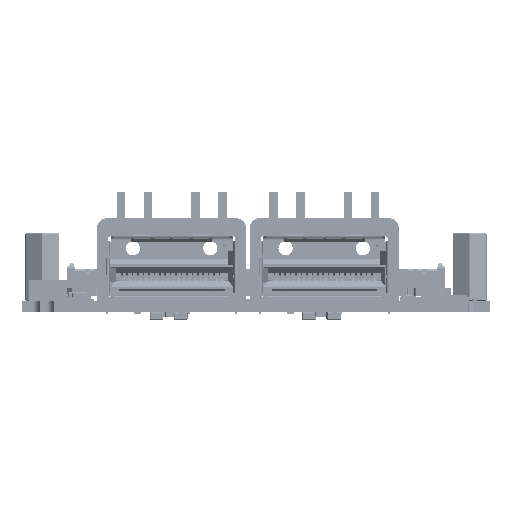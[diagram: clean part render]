
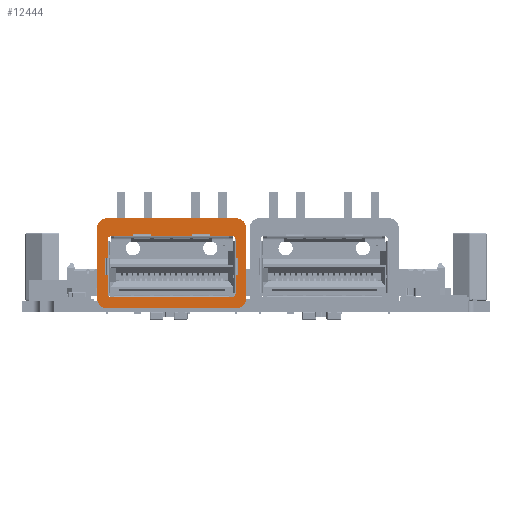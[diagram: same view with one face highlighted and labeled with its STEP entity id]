
A CAD part, left-side view. The second image highlights one B-rep face of the part: STEP entity #12444.
In plain terms, the highlighted planar face has unit normal (-1, 0, 0) as drawn and (0, 0, 1) by its records, which use the part's own axes.
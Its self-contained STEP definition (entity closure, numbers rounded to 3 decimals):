
#12444 = ADVANCED_FACE('',(#12445,#12515),#12713,.T.);
#12445 = FACE_BOUND('',#12446,.T.);
#12446 = EDGE_LOOP('',(#12447,#12457,#12466,#12474,#12483,#12491,#12500,
    #12508));
#12447 = ORIENTED_EDGE('',*,*,#12448,.T.);
#12448 = EDGE_CURVE('',#12449,#12451,#12453,.T.);
#12449 = VERTEX_POINT('',#12450);
#12450 = CARTESIAN_POINT('',(-11.,5.64,0.));
#12451 = VERTEX_POINT('',#12452);
#12452 = CARTESIAN_POINT('',(-11.,-4.65,0.));
#12453 = LINE('',#12454,#12455);
#12454 = CARTESIAN_POINT('',(-11.,5.64,0.));
#12455 = VECTOR('',#12456,1.);
#12456 = DIRECTION('',(0.,-1.,0.));
#12457 = ORIENTED_EDGE('',*,*,#12458,.T.);
#12458 = EDGE_CURVE('',#12451,#12459,#12461,.T.);
#12459 = VERTEX_POINT('',#12460);
#12460 = CARTESIAN_POINT('',(-9.5,-6.15,0.));
#12461 = CIRCLE('',#12462,1.5);
#12462 = AXIS2_PLACEMENT_3D('',#12463,#12464,#12465);
#12463 = CARTESIAN_POINT('',(-9.5,-4.65,0.));
#12464 = DIRECTION('',(0.,0.,1.));
#12465 = DIRECTION('',(-1.,0.,0.));
#12466 = ORIENTED_EDGE('',*,*,#12467,.T.);
#12467 = EDGE_CURVE('',#12459,#12468,#12470,.T.);
#12468 = VERTEX_POINT('',#12469);
#12469 = CARTESIAN_POINT('',(9.5,-6.15,0.));
#12470 = LINE('',#12471,#12472);
#12471 = CARTESIAN_POINT('',(-9.5,-6.15,0.));
#12472 = VECTOR('',#12473,1.);
#12473 = DIRECTION('',(1.,0.,0.));
#12474 = ORIENTED_EDGE('',*,*,#12475,.T.);
#12475 = EDGE_CURVE('',#12468,#12476,#12478,.T.);
#12476 = VERTEX_POINT('',#12477);
#12477 = CARTESIAN_POINT('',(11.,-4.65,0.));
#12478 = CIRCLE('',#12479,1.5);
#12479 = AXIS2_PLACEMENT_3D('',#12480,#12481,#12482);
#12480 = CARTESIAN_POINT('',(9.5,-4.65,0.));
#12481 = DIRECTION('',(0.,0.,1.));
#12482 = DIRECTION('',(0.,-1.,0.));
#12483 = ORIENTED_EDGE('',*,*,#12484,.T.);
#12484 = EDGE_CURVE('',#12476,#12485,#12487,.T.);
#12485 = VERTEX_POINT('',#12486);
#12486 = CARTESIAN_POINT('',(11.,5.64,0.));
#12487 = LINE('',#12488,#12489);
#12488 = CARTESIAN_POINT('',(11.,-4.65,0.));
#12489 = VECTOR('',#12490,1.);
#12490 = DIRECTION('',(0.,1.,0.));
#12491 = ORIENTED_EDGE('',*,*,#12492,.T.);
#12492 = EDGE_CURVE('',#12485,#12493,#12495,.T.);
#12493 = VERTEX_POINT('',#12494);
#12494 = CARTESIAN_POINT('',(9.5,7.14,0.));
#12495 = CIRCLE('',#12496,1.5);
#12496 = AXIS2_PLACEMENT_3D('',#12497,#12498,#12499);
#12497 = CARTESIAN_POINT('',(9.5,5.64,0.));
#12498 = DIRECTION('',(0.,0.,1.));
#12499 = DIRECTION('',(1.,0.,-0.));
#12500 = ORIENTED_EDGE('',*,*,#12501,.T.);
#12501 = EDGE_CURVE('',#12493,#12502,#12504,.T.);
#12502 = VERTEX_POINT('',#12503);
#12503 = CARTESIAN_POINT('',(-9.5,7.14,0.));
#12504 = LINE('',#12505,#12506);
#12505 = CARTESIAN_POINT('',(9.5,7.14,0.));
#12506 = VECTOR('',#12507,1.);
#12507 = DIRECTION('',(-1.,0.,0.));
#12508 = ORIENTED_EDGE('',*,*,#12509,.T.);
#12509 = EDGE_CURVE('',#12502,#12449,#12510,.T.);
#12510 = CIRCLE('',#12511,1.5);
#12511 = AXIS2_PLACEMENT_3D('',#12512,#12513,#12514);
#12512 = CARTESIAN_POINT('',(-9.5,5.64,0.));
#12513 = DIRECTION('',(0.,-0.,1.));
#12514 = DIRECTION('',(0.,1.,0.));
#12515 = FACE_BOUND('',#12516,.T.);
#12516 = EDGE_LOOP('',(#12517,#12527,#12535,#12543,#12551,#12559,#12567,
    #12576,#12584,#12592,#12600,#12608,#12616,#12625,#12633,#12642,
    #12650,#12658,#12666,#12674,#12682,#12691,#12699,#12707));
#12517 = ORIENTED_EDGE('',*,*,#12518,.T.);
#12518 = EDGE_CURVE('',#12519,#12521,#12523,.T.);
#12519 = VERTEX_POINT('',#12520);
#12520 = CARTESIAN_POINT('',(-2.995,4.85,0.));
#12521 = VERTEX_POINT('',#12522);
#12522 = CARTESIAN_POINT('',(-2.995,4.5,0.));
#12523 = LINE('',#12524,#12525);
#12524 = CARTESIAN_POINT('',(-2.995,4.85,0.));
#12525 = VECTOR('',#12526,1.);
#12526 = DIRECTION('',(0.,-1.,0.));
#12527 = ORIENTED_EDGE('',*,*,#12528,.T.);
#12528 = EDGE_CURVE('',#12521,#12529,#12531,.T.);
#12529 = VERTEX_POINT('',#12530);
#12530 = CARTESIAN_POINT('',(2.995,4.5,0.));
#12531 = LINE('',#12532,#12533);
#12532 = CARTESIAN_POINT('',(-2.995,4.5,0.));
#12533 = VECTOR('',#12534,1.);
#12534 = DIRECTION('',(1.,0.,0.));
#12535 = ORIENTED_EDGE('',*,*,#12536,.F.);
#12536 = EDGE_CURVE('',#12537,#12529,#12539,.T.);
#12537 = VERTEX_POINT('',#12538);
#12538 = CARTESIAN_POINT('',(2.995,4.85,0.));
#12539 = LINE('',#12540,#12541);
#12540 = CARTESIAN_POINT('',(2.995,4.85,0.));
#12541 = VECTOR('',#12542,1.);
#12542 = DIRECTION('',(0.,-1.,0.));
#12543 = ORIENTED_EDGE('',*,*,#12544,.T.);
#12544 = EDGE_CURVE('',#12537,#12545,#12547,.T.);
#12545 = VERTEX_POINT('',#12546);
#12546 = CARTESIAN_POINT('',(5.705,4.85,0.));
#12547 = LINE('',#12548,#12549);
#12548 = CARTESIAN_POINT('',(2.995,4.85,0.));
#12549 = VECTOR('',#12550,1.);
#12550 = DIRECTION('',(1.,0.,0.));
#12551 = ORIENTED_EDGE('',*,*,#12552,.T.);
#12552 = EDGE_CURVE('',#12545,#12553,#12555,.T.);
#12553 = VERTEX_POINT('',#12554);
#12554 = CARTESIAN_POINT('',(5.705,4.5,0.));
#12555 = LINE('',#12556,#12557);
#12556 = CARTESIAN_POINT('',(5.705,4.85,0.));
#12557 = VECTOR('',#12558,1.);
#12558 = DIRECTION('',(0.,-1.,0.));
#12559 = ORIENTED_EDGE('',*,*,#12560,.T.);
#12560 = EDGE_CURVE('',#12553,#12561,#12563,.T.);
#12561 = VERTEX_POINT('',#12562);
#12562 = CARTESIAN_POINT('',(8.925,4.5,0.));
#12563 = LINE('',#12564,#12565);
#12564 = CARTESIAN_POINT('',(5.705,4.5,0.));
#12565 = VECTOR('',#12566,1.);
#12566 = DIRECTION('',(1.,0.,0.));
#12567 = ORIENTED_EDGE('',*,*,#12568,.T.);
#12568 = EDGE_CURVE('',#12561,#12569,#12571,.T.);
#12569 = VERTEX_POINT('',#12570);
#12570 = CARTESIAN_POINT('',(9.425,4.,0.));
#12571 = CIRCLE('',#12572,0.5);
#12572 = AXIS2_PLACEMENT_3D('',#12573,#12574,#12575);
#12573 = CARTESIAN_POINT('',(8.925,4.,0.));
#12574 = DIRECTION('',(0.,0.,-1.));
#12575 = DIRECTION('',(0.,1.,0.));
#12576 = ORIENTED_EDGE('',*,*,#12577,.T.);
#12577 = EDGE_CURVE('',#12569,#12578,#12580,.T.);
#12578 = VERTEX_POINT('',#12579);
#12579 = CARTESIAN_POINT('',(9.425,1.25,0.));
#12580 = LINE('',#12581,#12582);
#12581 = CARTESIAN_POINT('',(9.425,4.,0.));
#12582 = VECTOR('',#12583,1.);
#12583 = DIRECTION('',(0.,-1.,0.));
#12584 = ORIENTED_EDGE('',*,*,#12585,.T.);
#12585 = EDGE_CURVE('',#12578,#12586,#12588,.T.);
#12586 = VERTEX_POINT('',#12587);
#12587 = CARTESIAN_POINT('',(9.775,1.25,0.));
#12588 = LINE('',#12589,#12590);
#12589 = CARTESIAN_POINT('',(9.425,1.25,0.));
#12590 = VECTOR('',#12591,1.);
#12591 = DIRECTION('',(1.,0.,0.));
#12592 = ORIENTED_EDGE('',*,*,#12593,.T.);
#12593 = EDGE_CURVE('',#12586,#12594,#12596,.T.);
#12594 = VERTEX_POINT('',#12595);
#12595 = CARTESIAN_POINT('',(9.775,-1.25,0.));
#12596 = LINE('',#12597,#12598);
#12597 = CARTESIAN_POINT('',(9.775,1.25,0.));
#12598 = VECTOR('',#12599,1.);
#12599 = DIRECTION('',(0.,-1.,0.));
#12600 = ORIENTED_EDGE('',*,*,#12601,.T.);
#12601 = EDGE_CURVE('',#12594,#12602,#12604,.T.);
#12602 = VERTEX_POINT('',#12603);
#12603 = CARTESIAN_POINT('',(9.425,-1.25,0.));
#12604 = LINE('',#12605,#12606);
#12605 = CARTESIAN_POINT('',(9.775,-1.25,0.));
#12606 = VECTOR('',#12607,1.);
#12607 = DIRECTION('',(-1.,0.,0.));
#12608 = ORIENTED_EDGE('',*,*,#12609,.T.);
#12609 = EDGE_CURVE('',#12602,#12610,#12612,.T.);
#12610 = VERTEX_POINT('',#12611);
#12611 = CARTESIAN_POINT('',(9.425,-4.,0.));
#12612 = LINE('',#12613,#12614);
#12613 = CARTESIAN_POINT('',(9.425,-1.25,0.));
#12614 = VECTOR('',#12615,1.);
#12615 = DIRECTION('',(0.,-1.,0.));
#12616 = ORIENTED_EDGE('',*,*,#12617,.T.);
#12617 = EDGE_CURVE('',#12610,#12618,#12620,.T.);
#12618 = VERTEX_POINT('',#12619);
#12619 = CARTESIAN_POINT('',(8.925,-4.5,0.));
#12620 = CIRCLE('',#12621,0.5);
#12621 = AXIS2_PLACEMENT_3D('',#12622,#12623,#12624);
#12622 = CARTESIAN_POINT('',(8.925,-4.,0.));
#12623 = DIRECTION('',(0.,0.,-1.));
#12624 = DIRECTION('',(1.,0.,0.));
#12625 = ORIENTED_EDGE('',*,*,#12626,.T.);
#12626 = EDGE_CURVE('',#12618,#12627,#12629,.T.);
#12627 = VERTEX_POINT('',#12628);
#12628 = CARTESIAN_POINT('',(-8.925,-4.5,0.));
#12629 = LINE('',#12630,#12631);
#12630 = CARTESIAN_POINT('',(8.925,-4.5,0.));
#12631 = VECTOR('',#12632,1.);
#12632 = DIRECTION('',(-1.,0.,0.));
#12633 = ORIENTED_EDGE('',*,*,#12634,.T.);
#12634 = EDGE_CURVE('',#12627,#12635,#12637,.T.);
#12635 = VERTEX_POINT('',#12636);
#12636 = CARTESIAN_POINT('',(-9.425,-4.,0.));
#12637 = CIRCLE('',#12638,0.5);
#12638 = AXIS2_PLACEMENT_3D('',#12639,#12640,#12641);
#12639 = CARTESIAN_POINT('',(-8.925,-4.,0.));
#12640 = DIRECTION('',(0.,0.,-1.));
#12641 = DIRECTION('',(0.,-1.,0.));
#12642 = ORIENTED_EDGE('',*,*,#12643,.T.);
#12643 = EDGE_CURVE('',#12635,#12644,#12646,.T.);
#12644 = VERTEX_POINT('',#12645);
#12645 = CARTESIAN_POINT('',(-9.425,-1.25,0.));
#12646 = LINE('',#12647,#12648);
#12647 = CARTESIAN_POINT('',(-9.425,-4.,0.));
#12648 = VECTOR('',#12649,1.);
#12649 = DIRECTION('',(0.,1.,0.));
#12650 = ORIENTED_EDGE('',*,*,#12651,.T.);
#12651 = EDGE_CURVE('',#12644,#12652,#12654,.T.);
#12652 = VERTEX_POINT('',#12653);
#12653 = CARTESIAN_POINT('',(-9.775,-1.25,0.));
#12654 = LINE('',#12655,#12656);
#12655 = CARTESIAN_POINT('',(-9.425,-1.25,0.));
#12656 = VECTOR('',#12657,1.);
#12657 = DIRECTION('',(-1.,0.,0.));
#12658 = ORIENTED_EDGE('',*,*,#12659,.T.);
#12659 = EDGE_CURVE('',#12652,#12660,#12662,.T.);
#12660 = VERTEX_POINT('',#12661);
#12661 = CARTESIAN_POINT('',(-9.775,1.25,0.));
#12662 = LINE('',#12663,#12664);
#12663 = CARTESIAN_POINT('',(-9.775,-1.25,0.));
#12664 = VECTOR('',#12665,1.);
#12665 = DIRECTION('',(0.,1.,0.));
#12666 = ORIENTED_EDGE('',*,*,#12667,.T.);
#12667 = EDGE_CURVE('',#12660,#12668,#12670,.T.);
#12668 = VERTEX_POINT('',#12669);
#12669 = CARTESIAN_POINT('',(-9.425,1.25,0.));
#12670 = LINE('',#12671,#12672);
#12671 = CARTESIAN_POINT('',(-9.775,1.25,0.));
#12672 = VECTOR('',#12673,1.);
#12673 = DIRECTION('',(1.,0.,0.));
#12674 = ORIENTED_EDGE('',*,*,#12675,.T.);
#12675 = EDGE_CURVE('',#12668,#12676,#12678,.T.);
#12676 = VERTEX_POINT('',#12677);
#12677 = CARTESIAN_POINT('',(-9.425,4.,0.));
#12678 = LINE('',#12679,#12680);
#12679 = CARTESIAN_POINT('',(-9.425,1.25,0.));
#12680 = VECTOR('',#12681,1.);
#12681 = DIRECTION('',(0.,1.,0.));
#12682 = ORIENTED_EDGE('',*,*,#12683,.T.);
#12683 = EDGE_CURVE('',#12676,#12684,#12686,.T.);
#12684 = VERTEX_POINT('',#12685);
#12685 = CARTESIAN_POINT('',(-8.925,4.5,0.));
#12686 = CIRCLE('',#12687,0.5);
#12687 = AXIS2_PLACEMENT_3D('',#12688,#12689,#12690);
#12688 = CARTESIAN_POINT('',(-8.925,4.,0.));
#12689 = DIRECTION('',(0.,0.,-1.));
#12690 = DIRECTION('',(-1.,0.,0.));
#12691 = ORIENTED_EDGE('',*,*,#12692,.T.);
#12692 = EDGE_CURVE('',#12684,#12693,#12695,.T.);
#12693 = VERTEX_POINT('',#12694);
#12694 = CARTESIAN_POINT('',(-5.705,4.5,0.));
#12695 = LINE('',#12696,#12697);
#12696 = CARTESIAN_POINT('',(-8.925,4.5,0.));
#12697 = VECTOR('',#12698,1.);
#12698 = DIRECTION('',(1.,0.,0.));
#12699 = ORIENTED_EDGE('',*,*,#12700,.F.);
#12700 = EDGE_CURVE('',#12701,#12693,#12703,.T.);
#12701 = VERTEX_POINT('',#12702);
#12702 = CARTESIAN_POINT('',(-5.705,4.85,0.));
#12703 = LINE('',#12704,#12705);
#12704 = CARTESIAN_POINT('',(-5.705,4.85,0.));
#12705 = VECTOR('',#12706,1.);
#12706 = DIRECTION('',(0.,-1.,0.));
#12707 = ORIENTED_EDGE('',*,*,#12708,.T.);
#12708 = EDGE_CURVE('',#12701,#12519,#12709,.T.);
#12709 = LINE('',#12710,#12711);
#12710 = CARTESIAN_POINT('',(-5.705,4.85,0.));
#12711 = VECTOR('',#12712,1.);
#12712 = DIRECTION('',(1.,0.,0.));
#12713 = PLANE('',#12714);
#12714 = AXIS2_PLACEMENT_3D('',#12715,#12716,#12717);
#12715 = CARTESIAN_POINT('',(0.,0.,0.));
#12716 = DIRECTION('',(0.,0.,1.));
#12717 = DIRECTION('',(1.,0.,-0.));
